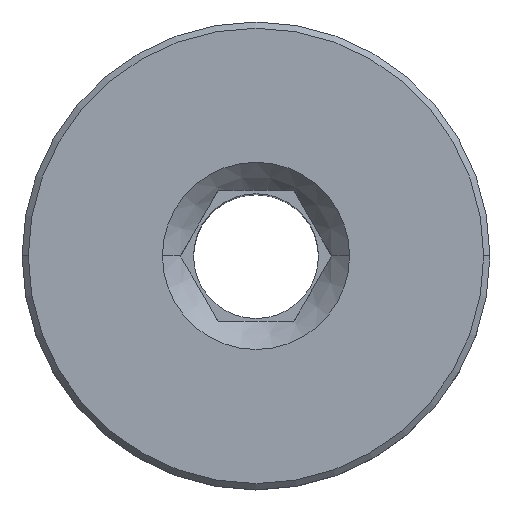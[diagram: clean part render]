
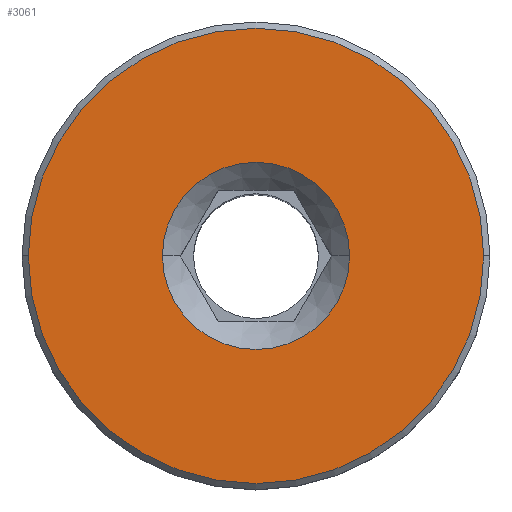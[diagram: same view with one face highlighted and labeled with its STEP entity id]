
A CAD part, top view. The second image highlights one B-rep face of the part: STEP entity #3061.
In plain terms, the highlighted planar face has unit normal (0, 0, 1).
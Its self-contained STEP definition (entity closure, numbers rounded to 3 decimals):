
#93 = AXIS2_PLACEMENT_3D ( 'NONE', #170, #1962, #3282 ) ;
#170 = CARTESIAN_POINT ( 'NONE',  ( 0., 0., 0. ) ) ;
#218 = CARTESIAN_POINT ( 'NONE',  ( 0., 0., 0. ) ) ;
#264 = CARTESIAN_POINT ( 'NONE',  ( 7.3, 0., 0. ) ) ;
#266 = DIRECTION ( 'NONE',  ( 0., 0., 1. ) ) ;
#438 = DIRECTION ( 'NONE',  ( 0., 0., 1. ) ) ;
#644 = CARTESIAN_POINT ( 'NONE',  ( -3., 0., 0. ) ) ;
#650 = VERTEX_POINT ( 'NONE', #264 ) ;
#661 = DIRECTION ( 'NONE',  ( 1., 0., 0. ) ) ;
#681 = CIRCLE ( 'NONE', #2109, 3. ) ;
#683 = VERTEX_POINT ( 'NONE', #2187 ) ;
#779 = PLANE ( 'NONE',  #1903 ) ;
#886 = EDGE_CURVE ( 'NONE', #650, #2067, #3159, .T. ) ;
#916 = CARTESIAN_POINT ( 'NONE',  ( 0., 0., 0. ) ) ;
#938 = ORIENTED_EDGE ( 'NONE', *, *, #886, .T. ) ;
#986 = CARTESIAN_POINT ( 'NONE',  ( 7.5, 0., 0. ) ) ;
#1037 = VERTEX_POINT ( 'NONE', #644 ) ;
#1163 = EDGE_LOOP ( 'NONE', ( #3009, #2224 ) ) ;
#1227 = FACE_BOUND ( 'NONE', #1163, .T. ) ;
#1243 = CARTESIAN_POINT ( 'NONE',  ( -7.3, 0., 0. ) ) ;
#1530 = FACE_OUTER_BOUND ( 'NONE', #1559, .T. ) ;
#1559 = EDGE_LOOP ( 'NONE', ( #2971, #938 ) ) ;
#1679 = AXIS2_PLACEMENT_3D ( 'NONE', #916, #1721, #3276 ) ;
#1721 = DIRECTION ( 'NONE',  ( 0., 0., -1. ) ) ;
#1830 = AXIS2_PLACEMENT_3D ( 'NONE', #2725, #438, #661 ) ;
#1903 = AXIS2_PLACEMENT_3D ( 'NONE', #986, #266, #2765 ) ;
#1914 = EDGE_CURVE ( 'NONE', #2067, #650, #2761, .T. ) ;
#1933 = EDGE_CURVE ( 'NONE', #1037, #683, #2707, .T. ) ;
#1962 = DIRECTION ( 'NONE',  ( 0., 0., 1. ) ) ;
#2067 = VERTEX_POINT ( 'NONE', #1243 ) ;
#2109 = AXIS2_PLACEMENT_3D ( 'NONE', #218, #3025, #2215 ) ;
#2187 = CARTESIAN_POINT ( 'NONE',  ( 3., 0., 0. ) ) ;
#2215 = DIRECTION ( 'NONE',  ( 1., 0., 0. ) ) ;
#2224 = ORIENTED_EDGE ( 'NONE', *, *, #1933, .T. ) ;
#2667 = EDGE_CURVE ( 'NONE', #683, #1037, #681, .T. ) ;
#2707 = CIRCLE ( 'NONE', #1679, 3. ) ;
#2725 = CARTESIAN_POINT ( 'NONE',  ( 0., 0., 0. ) ) ;
#2761 = CIRCLE ( 'NONE', #1830, 7.3 ) ;
#2765 = DIRECTION ( 'NONE',  ( 1., 0., 0. ) ) ;
#2971 = ORIENTED_EDGE ( 'NONE', *, *, #1914, .T. ) ;
#3009 = ORIENTED_EDGE ( 'NONE', *, *, #2667, .T. ) ;
#3025 = DIRECTION ( 'NONE',  ( 0., 0., -1. ) ) ;
#3061 = ADVANCED_FACE ( 'NONE', ( #1227, #1530 ), #779, .T. ) ;
#3159 = CIRCLE ( 'NONE', #93, 7.3 ) ;
#3276 = DIRECTION ( 'NONE',  ( 1., 0., 0. ) ) ;
#3282 = DIRECTION ( 'NONE',  ( 1., 0., 0. ) ) ;
